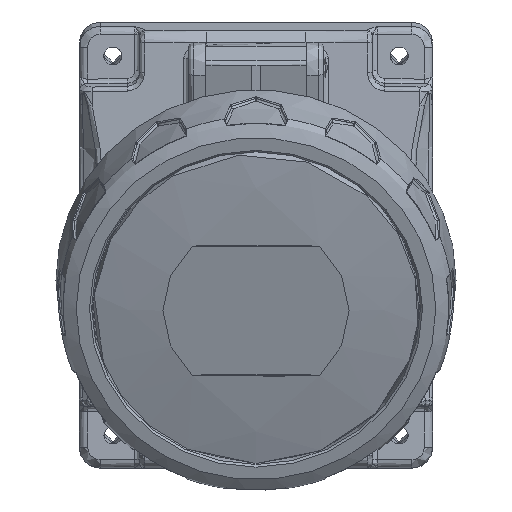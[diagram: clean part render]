
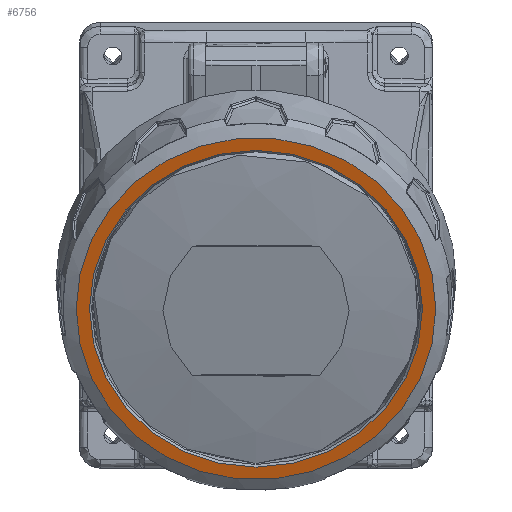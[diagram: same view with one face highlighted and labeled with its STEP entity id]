
A CAD part, front view. The second image highlights one B-rep face of the part: STEP entity #6756.
In plain terms, the highlighted planar face has unit normal (0, -0.951, -0.309).
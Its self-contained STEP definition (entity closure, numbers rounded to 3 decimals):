
#1814=FACE_BOUND('',#20753,.T.);
#1815=FACE_BOUND('',#20754,.T.);
#6756=ADVANCED_FACE('',(#1814,#1815),#12901,.F.);
#12901=PLANE('',#103748);
#20753=EDGE_LOOP('',(#45201));
#20754=EDGE_LOOP('',(#45202));
#40567=CIRCLE('',#103746,39.548);
#40568=CIRCLE('',#103747,42.71);
#45201=ORIENTED_EDGE('',*,*,#84292,.T.);
#45202=ORIENTED_EDGE('',*,*,#84293,.T.);
#74774=VERTEX_POINT('',#142175);
#74775=VERTEX_POINT('',#142177);
#84292=EDGE_CURVE('',#74774,#74774,#40567,.T.);
#84293=EDGE_CURVE('',#74775,#74775,#40568,.T.);
#103746=AXIS2_PLACEMENT_3D('',#142174,#113794,#113795);
#103747=AXIS2_PLACEMENT_3D('',#142176,#113796,#113797);
#103748=AXIS2_PLACEMENT_3D('',#142178,#113798,#113799);
#113794=DIRECTION('',(0.,0.951,0.309));
#113795=DIRECTION('',(-1.,0.,0.));
#113796=DIRECTION('',(0.,-0.951,-0.309));
#113797=DIRECTION('',(-1.,0.,0.));
#113798=DIRECTION('',(0.,0.951,0.309));
#113799=DIRECTION('',(-1.,0.,0.));
#142174=CARTESIAN_POINT('',(-0.005,-141.68,-25.975));
#142175=CARTESIAN_POINT('',(-39.553,-141.68,-25.975));
#142176=CARTESIAN_POINT('',(-0.005,-141.68,-25.975));
#142177=CARTESIAN_POINT('',(-42.715,-141.68,-25.975));
#142178=CARTESIAN_POINT('',(-38.005,-141.68,-25.975));
